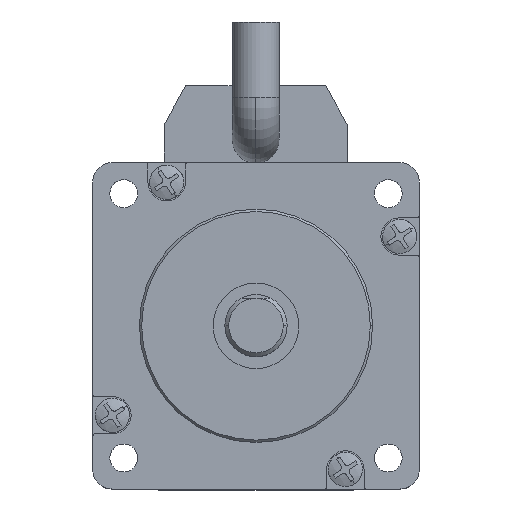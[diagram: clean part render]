
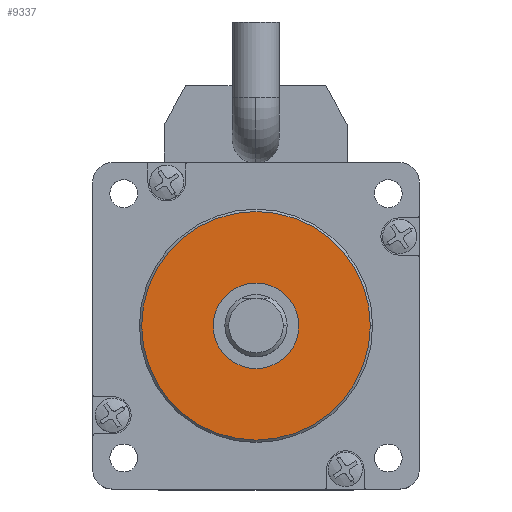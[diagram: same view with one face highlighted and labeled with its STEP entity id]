
A CAD part, top view. The second image highlights one B-rep face of the part: STEP entity #9337.
In plain terms, the highlighted planar face has unit normal (0, 0, 1).
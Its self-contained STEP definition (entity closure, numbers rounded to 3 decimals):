
#2572 = CARTESIAN_POINT ( 'NONE',  ( -38.465, 3.205, 110.5 ) ) ;
#3145 = AXIS2_PLACEMENT_3D ( 'NONE', #59333, #20010, #65931 ) ;
#7266 = AXIS2_PLACEMENT_3D ( 'NONE', #16060, #62033, #22707 ) ;
#9150 = DIRECTION ( 'NONE',  ( 1., 0., 0. ) ) ;
#9337 = ADVANCED_FACE ( 'NONE', ( #71299, #84588 ), #18753, .T. ) ;
#12333 = DIRECTION ( 'NONE',  ( 0., 0., 1. ) ) ;
#14167 = ORIENTED_EDGE ( 'NONE', *, *, #74817, .T. ) ;
#15239 = AXIS2_PLACEMENT_3D ( 'NONE', #30418, #76255, #37018 ) ;
#16060 = CARTESIAN_POINT ( 'NONE',  ( -38.465, 3.205, 110.5 ) ) ;
#16871 = CARTESIAN_POINT ( 'NONE',  ( -23.765, 3.205, 110.5 ) ) ;
#17850 = EDGE_LOOP ( 'NONE', ( #48351, #54206 ) ) ;
#18753 = PLANE ( 'NONE',  #32967 ) ;
#19954 = EDGE_CURVE ( 'NONE', #36167, #68822, #60310, .T. ) ;
#20010 = DIRECTION ( 'NONE',  ( 0., 0., 1. ) ) ;
#22707 = DIRECTION ( 'NONE',  ( 1., 0., 0. ) ) ;
#28220 = CARTESIAN_POINT ( 'NONE',  ( -43.965, 3.205, 110.5 ) ) ;
#28552 = CARTESIAN_POINT ( 'NONE',  ( -53.165, 3.205, 110.5 ) ) ;
#29322 = VERTEX_POINT ( 'NONE', #28552 ) ;
#30418 = CARTESIAN_POINT ( 'NONE',  ( -38.465, 3.205, 110.5 ) ) ;
#32967 = AXIS2_PLACEMENT_3D ( 'NONE', #84420, #12333, #58422 ) ;
#36167 = VERTEX_POINT ( 'NONE', #83612 ) ;
#36989 = ORIENTED_EDGE ( 'NONE', *, *, #56756, .T. ) ;
#37018 = DIRECTION ( 'NONE',  ( 1., 0., 0. ) ) ;
#38579 = VERTEX_POINT ( 'NONE', #16871 ) ;
#44204 = AXIS2_PLACEMENT_3D ( 'NONE', #2572, #48636, #9150 ) ;
#44539 = EDGE_LOOP ( 'NONE', ( #36989, #14167 ) ) ;
#48351 = ORIENTED_EDGE ( 'NONE', *, *, #19954, .F. ) ;
#48636 = DIRECTION ( 'NONE',  ( 0., 0., 1. ) ) ;
#53349 = EDGE_CURVE ( 'NONE', #68822, #36167, #76047, .T. ) ;
#54206 = ORIENTED_EDGE ( 'NONE', *, *, #53349, .F. ) ;
#54823 = CIRCLE ( 'NONE', #15239, 14.7 ) ;
#56756 = EDGE_CURVE ( 'NONE', #29322, #38579, #71754, .T. ) ;
#58422 = DIRECTION ( 'NONE',  ( 1., 0., 0. ) ) ;
#59333 = CARTESIAN_POINT ( 'NONE',  ( -38.465, 3.205, 110.5 ) ) ;
#60310 = CIRCLE ( 'NONE', #44204, 5.5 ) ;
#62033 = DIRECTION ( 'NONE',  ( 0., 0., 1. ) ) ;
#65931 = DIRECTION ( 'NONE',  ( 1., 0., 0. ) ) ;
#68822 = VERTEX_POINT ( 'NONE', #28220 ) ;
#71299 = FACE_OUTER_BOUND ( 'NONE', #44539, .T. ) ;
#71754 = CIRCLE ( 'NONE', #3145, 14.7 ) ;
#74817 = EDGE_CURVE ( 'NONE', #38579, #29322, #54823, .T. ) ;
#76047 = CIRCLE ( 'NONE', #7266, 5.5 ) ;
#76255 = DIRECTION ( 'NONE',  ( 0., 0., 1. ) ) ;
#83612 = CARTESIAN_POINT ( 'NONE',  ( -32.965, 3.205, 110.5 ) ) ;
#84420 = CARTESIAN_POINT ( 'NONE',  ( -38.465, 3.205, 110.5 ) ) ;
#84588 = FACE_BOUND ( 'NONE', #17850, .T. ) ;
